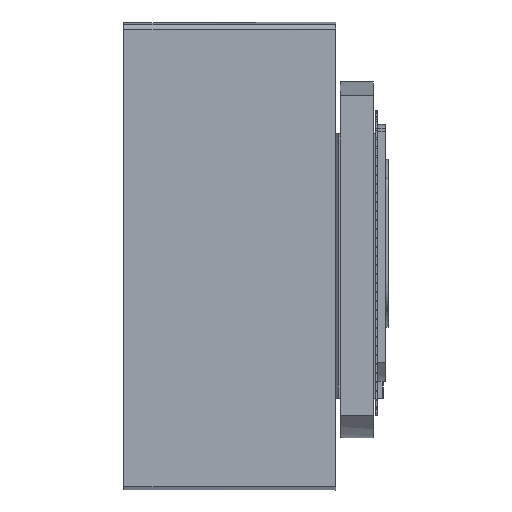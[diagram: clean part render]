
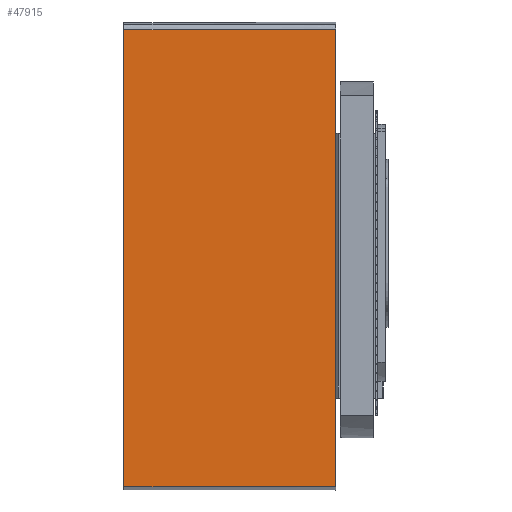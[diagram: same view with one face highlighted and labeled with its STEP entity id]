
A CAD part, left-side view. The second image highlights one B-rep face of the part: STEP entity #47915.
In plain terms, the highlighted planar face has unit normal (-1, 0, 0).
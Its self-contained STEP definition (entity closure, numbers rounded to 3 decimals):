
#1136=B_SPLINE_CURVE_WITH_KNOTS('',3,(#75871,#75872,#75873,#75874),
 .UNSPECIFIED.,.F.,.F.,(4,4),(-8.,0.),
 .UNSPECIFIED.);
#1139=B_SPLINE_CURVE_WITH_KNOTS('',3,(#75891,#75892,#75893,#75894,#75895,
#75896),.UNSPECIFIED.,.F.,.F.,(4,2,4),(0.05,3.278,
8.05),.UNSPECIFIED.);
#3329=PLANE('',#50320);
#5524=FACE_OUTER_BOUND('',#8666,.T.);
#8666=EDGE_LOOP('',(#45375,#45376,#45377,#45378));
#14989=LINE('',#75889,#21309);
#14990=LINE('',#75897,#21310);
#21309=VECTOR('',#61108,10.);
#21310=VECTOR('',#61109,10.);
#25740=VERTEX_POINT('',#75862);
#25741=VERTEX_POINT('',#75870);
#25743=VERTEX_POINT('',#75888);
#25744=VERTEX_POINT('',#75890);
#32286=EDGE_CURVE('',#25740,#25741,#1136,.T.);
#32289=EDGE_CURVE('',#25740,#25743,#14989,.T.);
#32290=EDGE_CURVE('',#25743,#25744,#1139,.T.);
#32291=EDGE_CURVE('',#25741,#25744,#14990,.T.);
#45375=ORIENTED_EDGE('',*,*,#32286,.F.);
#45376=ORIENTED_EDGE('',*,*,#32289,.T.);
#45377=ORIENTED_EDGE('',*,*,#32290,.T.);
#45378=ORIENTED_EDGE('',*,*,#32291,.F.);
#47915=ADVANCED_FACE('',(#5524),#3329,.T.);
#50320=AXIS2_PLACEMENT_3D('',#75887,#61106,#61107);
#61106=DIRECTION('center_axis',(-1.,0.,0.));
#61107=DIRECTION('ref_axis',(0.,1.,0.));
#61108=DIRECTION('',(0.,0.,-1.));
#61109=DIRECTION('',(0.,0.,-1.));
#75862=CARTESIAN_POINT('',(-250.,0.,-11.035));
#75870=CARTESIAN_POINT('',(-250.,-80.,-11.035));
#75871=CARTESIAN_POINT('Ctrl Pts',(-250.,0.,-11.035));
#75872=CARTESIAN_POINT('Ctrl Pts',(-250.,-26.667,-11.035));
#75873=CARTESIAN_POINT('Ctrl Pts',(-250.,-53.333,-11.035));
#75874=CARTESIAN_POINT('Ctrl Pts',(-250.,-80.,-11.035));
#75887=CARTESIAN_POINT('Origin',(-250.,-80.,0.));
#75888=CARTESIAN_POINT('',(-250.,0.,-183.584));
#75889=CARTESIAN_POINT('',(-250.,0.,0.));
#75890=CARTESIAN_POINT('',(-250.,-80.,-183.584));
#75891=CARTESIAN_POINT('Ctrl Pts',(-250.,0.,-183.584));
#75892=CARTESIAN_POINT('Ctrl Pts',(-250.,-10.76,-183.584));
#75893=CARTESIAN_POINT('Ctrl Pts',(-250.,-21.52,-183.584));
#75894=CARTESIAN_POINT('Ctrl Pts',(-250.,-48.187,-183.584));
#75895=CARTESIAN_POINT('Ctrl Pts',(-250.,-64.094,-183.584));
#75896=CARTESIAN_POINT('Ctrl Pts',(-250.,-80.,-183.584));
#75897=CARTESIAN_POINT('',(-250.,-80.,0.));
